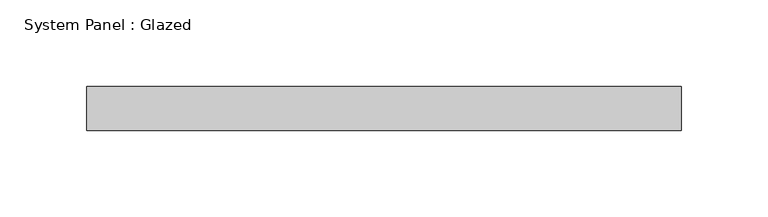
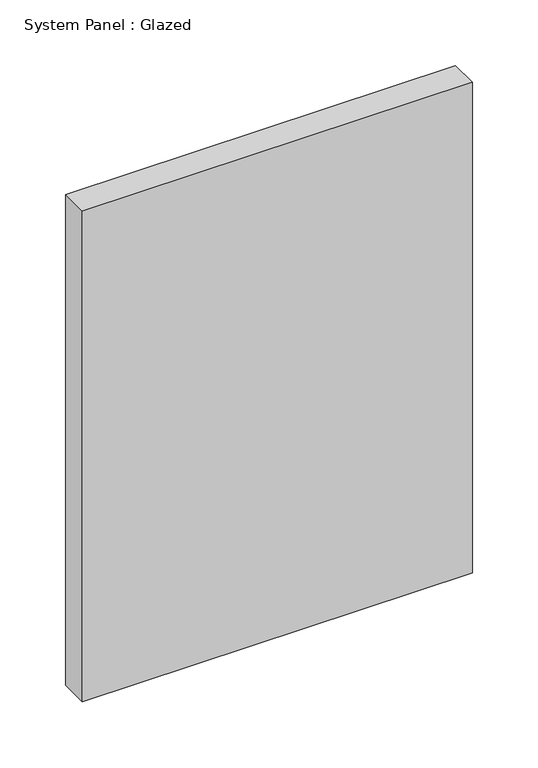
"""IFC4 building model written with IfcOpenShell, lengths in millimetres: plate geometry, System Panel : Glazed."""

from ifc_helpers import new_model, si_unit, origin, origin_with_axes, place, context, project, spatial, polyline, outline, extrude, source, transform, mapped, element, save


def system_panel_glazed_917ff89a(model_context):
    return source(origin(), model_context, "Body", "SweptSolid", [
        extrude(outline(polyline([(171.864282, -44.45), (-171.864282, -44.45), (-171.864282, -19.05), (171.864282, -19.05), (171.864282, -44.45)])), origin_with_axes(), (0.0, 0.0, 1.0), 457.2),
    ])


if __name__ == "__main__":
    model = new_model("IFC4")
    model_context = context("Model", 3, world=origin())
    ifc_project = project(units=[si_unit("LENGTHUNIT", "METRE", prefix="MILLI")], contexts=[model_context])
    site = spatial("IfcSite", under=ifc_project)
    building = spatial("IfcBuilding", under=site)
    placement = place(None, origin())
    system_panel_glazed_shape = system_panel_glazed_917ff89a(model_context)
    element("IfcPlate", 1, ObjectType="System Panel : Glazed", at=placement, inside=building, context=model_context, shape_type="MappedRepresentation", body=[
        mapped(system_panel_glazed_shape, transform((0.0, 0.0, 0.0), x_axis=(1.0, 0.0, 0.0), y_axis=(0.0, 1.0, 0.0), z_axis=(0.0, 0.0, 1.0))),
    ])
    save(model, "model.ifc")
